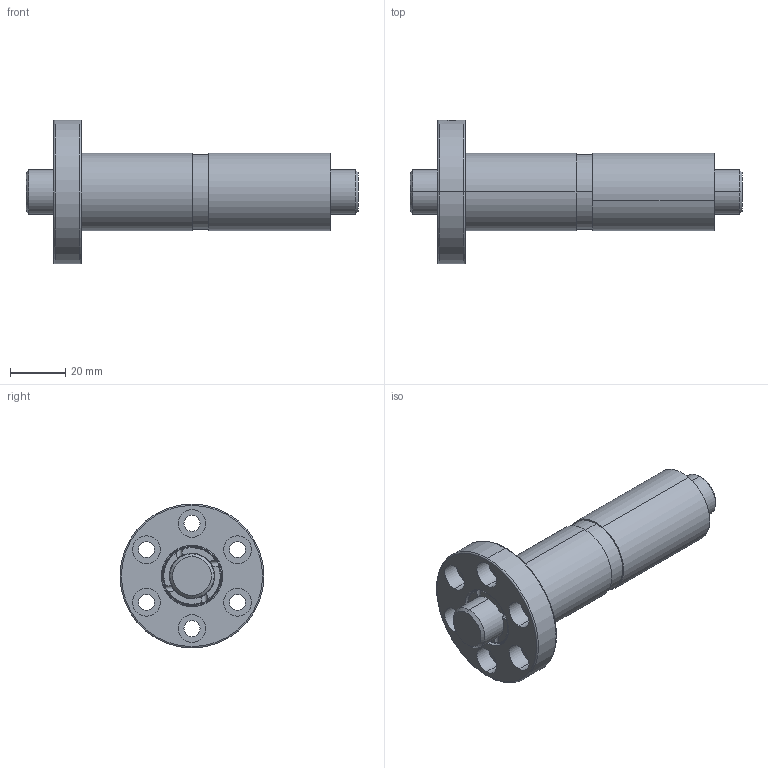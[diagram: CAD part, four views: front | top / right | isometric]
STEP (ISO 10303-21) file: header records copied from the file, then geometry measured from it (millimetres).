
FILE_DESCRIPTION (( 'STEP AP203' ), '1' );
FILE_NAME ('DFZR01605T4N-C.STEP', '2020-06-18T01:17:19', ( '' ), ( '' ), 'SwSTEP 2.0', 'SolidWorks 2013', '' );
FILE_SCHEMA (( 'CONFIG_CONTROL_DESIGN' ));
Length unit declared in the file: millimetre
Products named in the file (1): DFZR01605T4N-C
Bounding box: 120 x 52 x 52 mm (x, y, z)
Volume: 73287.4 mm3; surface area: 27894.9 mm2
Topology: 2 solids, 2 shells, 130 faces, 308 edges, 196 vertices
Faces by surface type: cylinder 74, plane 30, torus 22, cone 4
Entity records: 4263 total; most frequent: CARTESIAN_POINT 1071, DIRECTION 704, ORIENTED_EDGE 616, AXIS2_PLACEMENT_3D 311, EDGE_CURVE 308, VERTEX_POINT 196, CIRCLE 180, EDGE_LOOP 162
